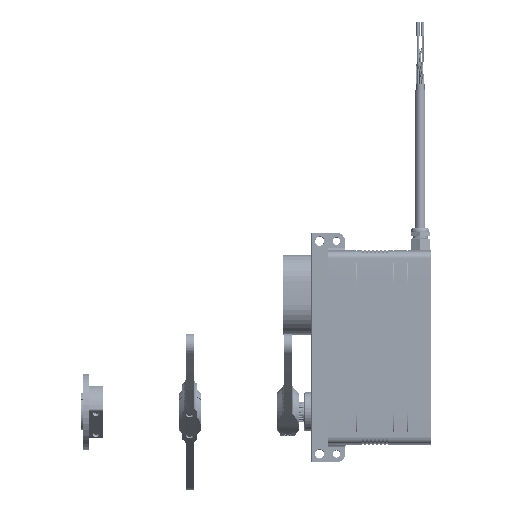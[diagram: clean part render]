
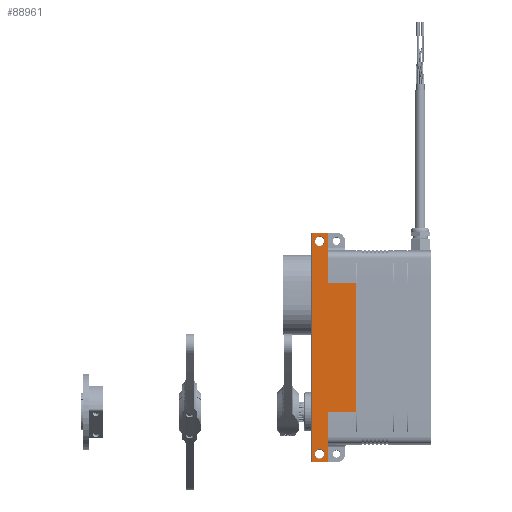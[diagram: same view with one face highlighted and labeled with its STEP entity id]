
A CAD part, left-side view. The second image highlights one B-rep face of the part: STEP entity #88961.
In plain terms, the highlighted planar face has unit normal (-1, 0, 0).
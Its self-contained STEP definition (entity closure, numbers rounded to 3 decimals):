
#403 = CARTESIAN_POINT ( 'NONE',  ( -18., 16.6, 76. ) ) ;
#1567 = EDGE_LOOP ( 'NONE', ( #15347 ) ) ;
#1796 = DIRECTION ( 'NONE',  ( 0., 0., -1. ) ) ;
#2168 = CARTESIAN_POINT ( 'NONE',  ( -18., 16.6, -29.8 ) ) ;
#2861 = CARTESIAN_POINT ( 'NONE',  ( -18., 21.6, -25. ) ) ;
#3217 = CARTESIAN_POINT ( 'NONE',  ( -18., 26.4, 105.8 ) ) ;
#6581 = CARTESIAN_POINT ( 'NONE',  ( -18., 26.6, 0. ) ) ;
#6611 = EDGE_CURVE ( 'NONE', #58309, #72029, #61619, .T. ) ;
#9052 = LINE ( 'NONE', #403, #59591 ) ;
#9755 = DIRECTION ( 'NONE',  ( 0., -1., 0. ) ) ;
#9909 = CARTESIAN_POINT ( 'NONE',  ( -18., 26.4, -29.8 ) ) ;
#12199 = VERTEX_POINT ( 'NONE', #9909 ) ;
#13045 = ORIENTED_EDGE ( 'NONE', *, *, #52320, .T. ) ;
#13487 = DIRECTION ( 'NONE',  ( 1., 0., 0. ) ) ;
#14027 = DIRECTION ( 'NONE',  ( 0., -1., 0. ) ) ;
#14609 = EDGE_CURVE ( 'NONE', #50495, #96541, #81498, .T. ) ;
#15347 = ORIENTED_EDGE ( 'NONE', *, *, #53069, .T. ) ;
#17724 = CARTESIAN_POINT ( 'NONE',  ( -18., 16.6, 105.8 ) ) ;
#19500 = LINE ( 'NONE', #2168, #20845 ) ;
#20845 = VECTOR ( 'NONE', #9755, 1000. ) ;
#22182 = CARTESIAN_POINT ( 'NONE',  ( -18., 26.6, 76. ) ) ;
#27124 = LINE ( 'NONE', #93390, #44997 ) ;
#30325 = CARTESIAN_POINT ( 'NONE',  ( -18., 16.6, 0. ) ) ;
#30386 = EDGE_LOOP ( 'NONE', ( #13045 ) ) ;
#31579 = DIRECTION ( 'NONE',  ( 0., 1., 0. ) ) ;
#31644 = AXIS2_PLACEMENT_3D ( 'NONE', #63063, #39184, #97790 ) ;
#33510 = DIRECTION ( 'NONE',  ( 0., 0., 1. ) ) ;
#35970 = DIRECTION ( 'NONE',  ( 1., 0., 0. ) ) ;
#36681 = VERTEX_POINT ( 'NONE', #63657 ) ;
#38489 = CARTESIAN_POINT ( 'NONE',  ( -18., 26.6, 0. ) ) ;
#39184 = DIRECTION ( 'NONE',  ( 1., 0., 0. ) ) ;
#39886 = DIRECTION ( 'NONE',  ( 0., 0., 1. ) ) ;
#40097 = FACE_OUTER_BOUND ( 'NONE', #65679, .T. ) ;
#42425 = VERTEX_POINT ( 'NONE', #50017 ) ;
#44863 = EDGE_CURVE ( 'NONE', #12199, #90090, #19500, .T. ) ;
#44997 = VECTOR ( 'NONE', #53173, 1000. ) ;
#48268 = FACE_BOUND ( 'NONE', #1567, .T. ) ;
#49871 = ORIENTED_EDGE ( 'NONE', *, *, #82018, .T. ) ;
#50017 = CARTESIAN_POINT ( 'NONE',  ( -18., 21.6, -27.85 ) ) ;
#50495 = VERTEX_POINT ( 'NONE', #17724 ) ;
#52320 = EDGE_CURVE ( 'NONE', #42425, #42425, #76535, .T. ) ;
#53069 = EDGE_CURVE ( 'NONE', #107022, #107022, #95829, .T. ) ;
#53130 = EDGE_CURVE ( 'NONE', #103331, #58309, #80950, .T. ) ;
#53173 = DIRECTION ( 'NONE',  ( 0., 0., -1. ) ) ;
#53268 = ORIENTED_EDGE ( 'NONE', *, *, #44863, .T. ) ;
#53905 = ORIENTED_EDGE ( 'NONE', *, *, #53130, .T. ) ;
#58309 = VERTEX_POINT ( 'NONE', #75265 ) ;
#59591 = VECTOR ( 'NONE', #33510, 1000. ) ;
#61619 = LINE ( 'NONE', #86591, #93055 ) ;
#62441 = ORIENTED_EDGE ( 'NONE', *, *, #6611, .T. ) ;
#63063 = CARTESIAN_POINT ( 'NONE',  ( -18., 21.6, 101. ) ) ;
#63450 = DIRECTION ( 'NONE',  ( 0., 0., -1. ) ) ;
#63657 = CARTESIAN_POINT ( 'NONE',  ( -18., 16.6, 76. ) ) ;
#63732 = ORIENTED_EDGE ( 'NONE', *, *, #64531, .T. ) ;
#64531 = EDGE_CURVE ( 'NONE', #96541, #12199, #27124, .T. ) ;
#65679 = EDGE_LOOP ( 'NONE', ( #66018, #103820, #63732, #53268, #49871, #53905, #62441, #87566 ) ) ;
#66018 = ORIENTED_EDGE ( 'NONE', *, *, #95427, .T. ) ;
#66820 = CARTESIAN_POINT ( 'NONE',  ( -18., 21.6, 98.15 ) ) ;
#68264 = VECTOR ( 'NONE', #103645, 1000. ) ;
#70300 = EDGE_CURVE ( 'NONE', #36681, #72029, #88964, .T. ) ;
#72029 = VERTEX_POINT ( 'NONE', #77140 ) ;
#72805 = DIRECTION ( 'NONE',  ( 0., -1., 0. ) ) ;
#72833 = CARTESIAN_POINT ( 'NONE',  ( -18., 26.6, 105.8 ) ) ;
#73187 = PLANE ( 'NONE',  #98535 ) ;
#75265 = CARTESIAN_POINT ( 'NONE',  ( -18., 0., 0. ) ) ;
#76535 = CIRCLE ( 'NONE', #80096, 2.85 ) ;
#76847 = CARTESIAN_POINT ( 'NONE',  ( -18., 16.6, -29.8 ) ) ;
#77140 = CARTESIAN_POINT ( 'NONE',  ( -18., 0., 76. ) ) ;
#80096 = AXIS2_PLACEMENT_3D ( 'NONE', #2861, #35970, #1796 ) ;
#80950 = LINE ( 'NONE', #6581, #97537 ) ;
#81498 = LINE ( 'NONE', #72833, #97541 ) ;
#82018 = EDGE_CURVE ( 'NONE', #90090, #103331, #87342, .T. ) ;
#86404 = CARTESIAN_POINT ( 'NONE',  ( -18., 16.6, 0. ) ) ;
#86591 = CARTESIAN_POINT ( 'NONE',  ( -18., 0., 0. ) ) ;
#87342 = LINE ( 'NONE', #30325, #68264 ) ;
#87566 = ORIENTED_EDGE ( 'NONE', *, *, #70300, .F. ) ;
#87884 = FACE_BOUND ( 'NONE', #30386, .T. ) ;
#88961 = ADVANCED_FACE ( 'NONE', ( #48268, #87884, #40097 ), #73187, .F. ) ;
#88964 = LINE ( 'NONE', #22182, #106247 ) ;
#90090 = VERTEX_POINT ( 'NONE', #76847 ) ;
#93055 = VECTOR ( 'NONE', #39886, 1000. ) ;
#93390 = CARTESIAN_POINT ( 'NONE',  ( -18., 26.4, 0. ) ) ;
#95427 = EDGE_CURVE ( 'NONE', #36681, #50495, #9052, .T. ) ;
#95829 = CIRCLE ( 'NONE', #31644, 2.85 ) ;
#96541 = VERTEX_POINT ( 'NONE', #3217 ) ;
#97537 = VECTOR ( 'NONE', #72805, 1000. ) ;
#97541 = VECTOR ( 'NONE', #31579, 1000. ) ;
#97790 = DIRECTION ( 'NONE',  ( 0., 0., -1. ) ) ;
#98535 = AXIS2_PLACEMENT_3D ( 'NONE', #38489, #13487, #63450 ) ;
#103331 = VERTEX_POINT ( 'NONE', #86404 ) ;
#103645 = DIRECTION ( 'NONE',  ( 0., 0., 1. ) ) ;
#103820 = ORIENTED_EDGE ( 'NONE', *, *, #14609, .T. ) ;
#106247 = VECTOR ( 'NONE', #14027, 1000. ) ;
#107022 = VERTEX_POINT ( 'NONE', #66820 ) ;
